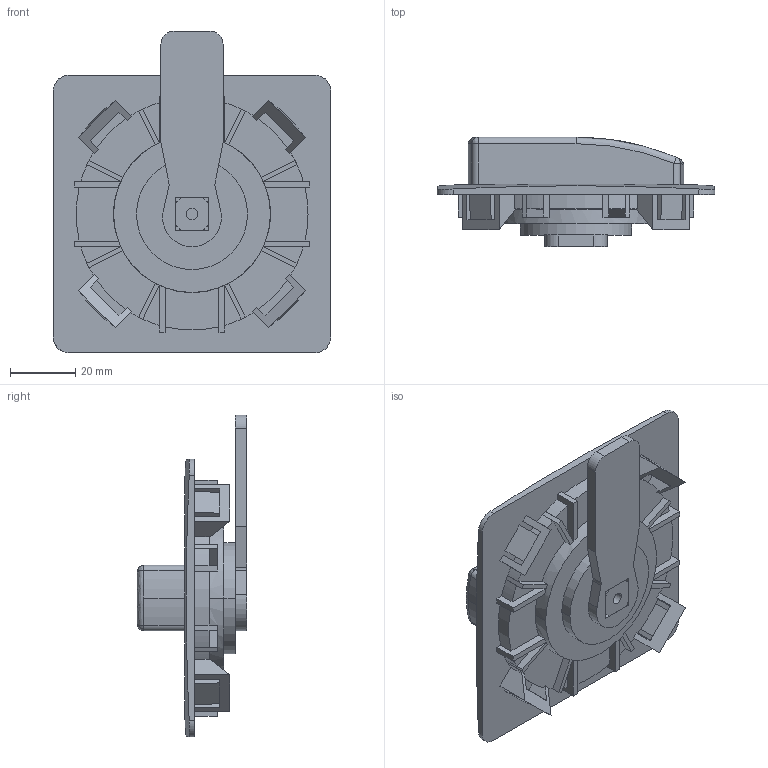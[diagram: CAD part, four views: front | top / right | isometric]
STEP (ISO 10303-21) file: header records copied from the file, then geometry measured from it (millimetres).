
FILE_DESCRIPTION (( 'STEP AP214' ), '1' );
FILE_NAME ('2.608.001.STEP', '2012-01-27T10:16:37', ( 'Techniczny' ), ( 'RST Roztocze' ), 'SwSTEP 2.0', 'SolidWorks 2010', '' );
FILE_SCHEMA (( 'AUTOMOTIVE_DESIGN' ));
Length unit declared in the file: millimetre
Products named in the file (6): korpus2; korpus1; jezyk3; Œruba M6x11; 2.608.001; pokretlo1
Assembly tree (5 placements, depth 2):
  2.608.001
    pokretlo1
    korpus1
    jezyk3
    korpus2
    Œruba M6x11
Bounding box: 85 x 33.5 x 98.5 mm (x, y, z)
Volume: 63602.2 mm3; surface area: 33788.8 mm2
Topology: 5 solids, 5 shells, 302 faces, 842 edges, 549 vertices
Faces by surface type: plane 218, cylinder 68, bspline 10, cone 6
Entity records: 10237 total; most frequent: CARTESIAN_POINT 2134, ORIENTED_EDGE 1684, DIRECTION 1615, EDGE_CURVE 842, VECTOR 615, LINE 615, VERTEX_POINT 549, AXIS2_PLACEMENT_3D 500
